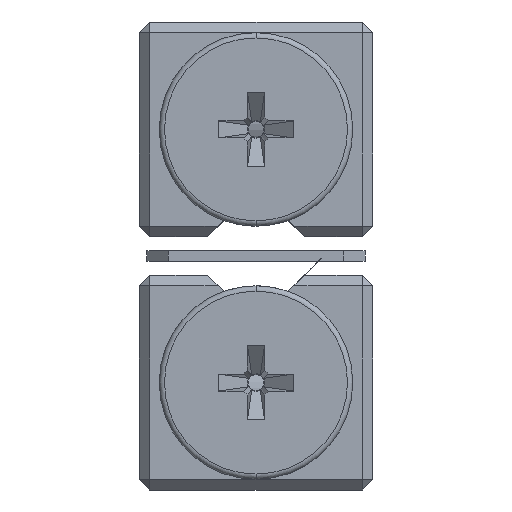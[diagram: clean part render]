
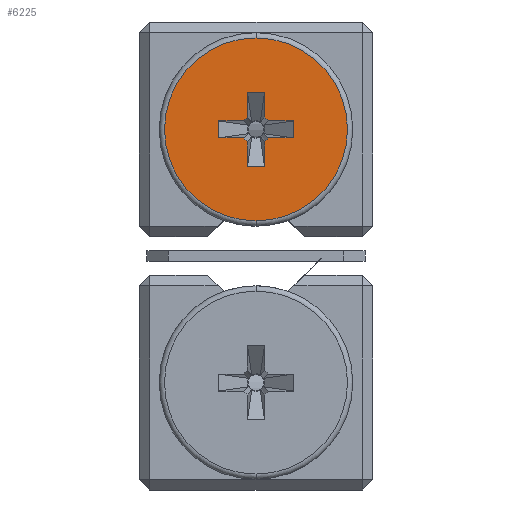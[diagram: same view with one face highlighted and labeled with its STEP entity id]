
A CAD part, left-side view. The second image highlights one B-rep face of the part: STEP entity #6225.
In plain terms, the highlighted planar face has unit normal (-1, 0, 0).
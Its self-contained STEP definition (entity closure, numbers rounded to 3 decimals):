
#1517 = EDGE_LOOP ( 'NONE', ( #1735, #1736, #1749, #1750, #1746, #1747, #1748, #1745, #1778, #1788, #1787, #1786, #1784, #1785, #1783, #1782 ) ) ;
#1523 = EDGE_LOOP ( 'NONE', ( #1733, #1734 ) ) ;
#1733 = ORIENTED_EDGE ( 'NONE', *, *, #2230, .T. ) ;
#1734 = ORIENTED_EDGE ( 'NONE', *, *, #2185, .T. ) ;
#1735 = ORIENTED_EDGE ( 'NONE', *, *, #2192, .F. ) ;
#1736 = ORIENTED_EDGE ( 'NONE', *, *, #2220, .T. ) ;
#1745 = ORIENTED_EDGE ( 'NONE', *, *, #2207, .T. ) ;
#1746 = ORIENTED_EDGE ( 'NONE', *, *, #2229, .F. ) ;
#1747 = ORIENTED_EDGE ( 'NONE', *, *, #2200, .T. ) ;
#1748 = ORIENTED_EDGE ( 'NONE', *, *, #2205, .F. ) ;
#1749 = ORIENTED_EDGE ( 'NONE', *, *, #2224, .F. ) ;
#1750 = ORIENTED_EDGE ( 'NONE', *, *, #2226, .T. ) ;
#1778 = ORIENTED_EDGE ( 'NONE', *, *, #2228, .F. ) ;
#1782 = ORIENTED_EDGE ( 'NONE', *, *, #2219, .T. ) ;
#1783 = ORIENTED_EDGE ( 'NONE', *, *, #2218, .F. ) ;
#1784 = ORIENTED_EDGE ( 'NONE', *, *, #2196, .F. ) ;
#1785 = ORIENTED_EDGE ( 'NONE', *, *, #2215, .T. ) ;
#1786 = ORIENTED_EDGE ( 'NONE', *, *, #2214, .T. ) ;
#1787 = ORIENTED_EDGE ( 'NONE', *, *, #2212, .F. ) ;
#1788 = ORIENTED_EDGE ( 'NONE', *, *, #2208, .T. ) ;
#2185 = EDGE_CURVE ( 'NONE', #19439, #19249, #2953, .T. ) ;
#2192 = EDGE_CURVE ( 'NONE', #19251, #19258, #2964, .T. ) ;
#2196 = EDGE_CURVE ( 'NONE', #19257, #19262, #2962, .T. ) ;
#2200 = EDGE_CURVE ( 'NONE', #19410, #19254, #2968, .T. ) ;
#2205 = EDGE_CURVE ( 'NONE', #19264, #19254, #2974, .T. ) ;
#2207 = EDGE_CURVE ( 'NONE', #19264, #19266, #2975, .T. ) ;
#2208 = EDGE_CURVE ( 'NONE', #19263, #19267, #2973, .T. ) ;
#2212 = EDGE_CURVE ( 'NONE', #19272, #19267, #2983, .T. ) ;
#2214 = EDGE_CURVE ( 'NONE', #19272, #19262, #2986, .T. ) ;
#2215 = EDGE_CURVE ( 'NONE', #19257, #19270, #2987, .T. ) ;
#2218 = EDGE_CURVE ( 'NONE', #19307, #19270, #2993, .T. ) ;
#2219 = EDGE_CURVE ( 'NONE', #19307, #19258, #2995, .T. ) ;
#2220 = EDGE_CURVE ( 'NONE', #19251, #19302, #2997, .T. ) ;
#2224 = EDGE_CURVE ( 'NONE', #19271, #19302, #3004, .T. ) ;
#2226 = EDGE_CURVE ( 'NONE', #19271, #19306, #3005, .T. ) ;
#2228 = EDGE_CURVE ( 'NONE', #19263, #19266, #3009, .T. ) ;
#2229 = EDGE_CURVE ( 'NONE', #19410, #19306, #3010, .T. ) ;
#2230 = EDGE_CURVE ( 'NONE', #19249, #19439, #3011, .T. ) ;
#2953 = CIRCLE ( 'NONE', #7610, 8.6 ) ;
#2962 = CIRCLE ( 'NONE', #7615, 1.42 ) ;
#2964 = CIRCLE ( 'NONE', #7614, 1.42 ) ;
#2968 = LINE ( 'NONE', #7777, #2970 ) ;
#2970 = VECTOR ( 'NONE', #8029, 1000. ) ;
#2973 = LINE ( 'NONE', #7809, #2980 ) ;
#2974 = LINE ( 'NONE', #7791, #2976 ) ;
#2975 = LINE ( 'NONE', #8069, #2977 ) ;
#2976 = VECTOR ( 'NONE', #7794, 1000. ) ;
#2977 = VECTOR ( 'NONE', #7810, 1000. ) ;
#2980 = VECTOR ( 'NONE', #7804, 1000. ) ;
#2983 = LINE ( 'NONE', #8042, #2985 ) ;
#2985 = VECTOR ( 'NONE', #7831, 1000. ) ;
#2986 = LINE ( 'NONE', #7894, #2988 ) ;
#2987 = LINE ( 'NONE', #8052, #2990 ) ;
#2988 = VECTOR ( 'NONE', #7914, 1000. ) ;
#2990 = VECTOR ( 'NONE', #7832, 1000. ) ;
#2993 = LINE ( 'NONE', #7828, #2996 ) ;
#2995 = LINE ( 'NONE', #7877, #2998 ) ;
#2996 = VECTOR ( 'NONE', #7887, 1000. ) ;
#2997 = LINE ( 'NONE', #7876, #3000 ) ;
#2998 = VECTOR ( 'NONE', #8058, 1000. ) ;
#3000 = VECTOR ( 'NONE', #7880, 1000. ) ;
#3004 = LINE ( 'NONE', #8057, #3006 ) ;
#3005 = LINE ( 'NONE', #8071, #3007 ) ;
#3006 = VECTOR ( 'NONE', #7980, 1000. ) ;
#3007 = VECTOR ( 'NONE', #8073, 1000. ) ;
#3009 = CIRCLE ( 'NONE', #7617, 1.42 ) ;
#3010 = CIRCLE ( 'NONE', #7618, 1.42 ) ;
#3011 = CIRCLE ( 'NONE', #7619, 8.6 ) ;
#4866 = AXIS2_PLACEMENT_3D ( 'NONE', #8205, #8193, #8192 ) ;
#6225 = ADVANCED_FACE ( 'NONE', ( #12272, #12265 ), #8196, .F. ) ;
#7610 = AXIS2_PLACEMENT_3D ( 'NONE', #8012, #8011, #7695 ) ;
#7614 = AXIS2_PLACEMENT_3D ( 'NONE', #7754, #7755, #8017 ) ;
#7615 = AXIS2_PLACEMENT_3D ( 'NONE', #7771, #7772, #7773 ) ;
#7617 = AXIS2_PLACEMENT_3D ( 'NONE', #8090, #7781, #7751 ) ;
#7618 = AXIS2_PLACEMENT_3D ( 'NONE', #7989, #8114, #8107 ) ;
#7619 = AXIS2_PLACEMENT_3D ( 'NONE', #7862, #7863, #8060 ) ;
#7695 = DIRECTION ( 'NONE',  ( 0., 0., -1. ) ) ;
#7751 = DIRECTION ( 'NONE',  ( 0., 0., 1. ) ) ;
#7754 = CARTESIAN_POINT ( 'NONE',  ( -109.563, 44.444, 23.8 ) ) ;
#7755 = DIRECTION ( 'NONE',  ( -1., 0., 0. ) ) ;
#7771 = CARTESIAN_POINT ( 'NONE',  ( -109.563, 44.444, 23.8 ) ) ;
#7772 = DIRECTION ( 'NONE',  ( -1., 0., 0. ) ) ;
#7773 = DIRECTION ( 'NONE',  ( 0., 0., 1. ) ) ;
#7777 = CARTESIAN_POINT ( 'NONE',  ( -109.563, 40.944, 23. ) ) ;
#7781 = DIRECTION ( 'NONE',  ( -1., 0., 0. ) ) ;
#7791 = CARTESIAN_POINT ( 'NONE',  ( -109.563, 47.944, 24.6 ) ) ;
#7794 = DIRECTION ( 'NONE',  ( 0., 0., -1. ) ) ;
#7804 = DIRECTION ( 'NONE',  ( 0., 0., 1. ) ) ;
#7809 = CARTESIAN_POINT ( 'NONE',  ( -109.563, 45.244, 20.3 ) ) ;
#7810 = DIRECTION ( 'NONE',  ( 0., -1., 0. ) ) ;
#7828 = CARTESIAN_POINT ( 'NONE',  ( -109.563, 40.944, 23. ) ) ;
#7831 = DIRECTION ( 'NONE',  ( 0., 1., 0. ) ) ;
#7832 = DIRECTION ( 'NONE',  ( 0., -1., 0. ) ) ;
#7862 = CARTESIAN_POINT ( 'NONE',  ( -109.563, 44.444, 23.8 ) ) ;
#7863 = DIRECTION ( 'NONE',  ( -1., 0., 0. ) ) ;
#7876 = CARTESIAN_POINT ( 'NONE',  ( -109.563, 43.644, 27.3 ) ) ;
#7877 = CARTESIAN_POINT ( 'NONE',  ( -109.563, 40.944, 23. ) ) ;
#7880 = DIRECTION ( 'NONE',  ( 0., 0., -1. ) ) ;
#7887 = DIRECTION ( 'NONE',  ( 0., 0., 1. ) ) ;
#7894 = CARTESIAN_POINT ( 'NONE',  ( -109.563, 43.644, 27.3 ) ) ;
#7914 = DIRECTION ( 'NONE',  ( 0., 0., -1. ) ) ;
#7980 = DIRECTION ( 'NONE',  ( 0., -1., 0. ) ) ;
#7989 = CARTESIAN_POINT ( 'NONE',  ( -109.563, 44.444, 23.8 ) ) ;
#8011 = DIRECTION ( 'NONE',  ( -1., 0., 0. ) ) ;
#8012 = CARTESIAN_POINT ( 'NONE',  ( -109.563, 44.444, 23.8 ) ) ;
#8017 = DIRECTION ( 'NONE',  ( 0., 0., 1. ) ) ;
#8029 = DIRECTION ( 'NONE',  ( 0., 1., 0. ) ) ;
#8042 = CARTESIAN_POINT ( 'NONE',  ( -109.563, 43.644, 27.3 ) ) ;
#8052 = CARTESIAN_POINT ( 'NONE',  ( -109.563, 47.944, 24.6 ) ) ;
#8057 = CARTESIAN_POINT ( 'NONE',  ( -109.563, 45.244, 20.3 ) ) ;
#8058 = DIRECTION ( 'NONE',  ( 0., 1., 0. ) ) ;
#8060 = DIRECTION ( 'NONE',  ( 0., 0., -1. ) ) ;
#8069 = CARTESIAN_POINT ( 'NONE',  ( -109.563, 47.944, 24.6 ) ) ;
#8071 = CARTESIAN_POINT ( 'NONE',  ( -109.563, 45.244, 20.3 ) ) ;
#8073 = DIRECTION ( 'NONE',  ( 0., 0., 1. ) ) ;
#8090 = CARTESIAN_POINT ( 'NONE',  ( -109.563, 44.444, 23.8 ) ) ;
#8107 = DIRECTION ( 'NONE',  ( 0., 0., 1. ) ) ;
#8114 = DIRECTION ( 'NONE',  ( -1., 0., 0. ) ) ;
#8192 = DIRECTION ( 'NONE',  ( 0., 0., -1. ) ) ;
#8193 = DIRECTION ( 'NONE',  ( 1., 0., 0. ) ) ;
#8196 = PLANE ( 'NONE',  #4866 ) ;
#8205 = CARTESIAN_POINT ( 'NONE',  ( -109.563, 53.544, 23.8 ) ) ;
#12265 = FACE_BOUND ( 'NONE', #1517, .T. ) ;
#12272 = FACE_OUTER_BOUND ( 'NONE', #1523, .T. ) ;
#13548 = CARTESIAN_POINT ( 'NONE',  ( -109.563, 44.444, 15.2 ) ) ;
#13551 = CARTESIAN_POINT ( 'NONE',  ( -109.563, 40.944, 24.6 ) ) ;
#13553 = CARTESIAN_POINT ( 'NONE',  ( -109.563, 43.644, 22.627 ) ) ;
#13556 = CARTESIAN_POINT ( 'NONE',  ( -109.563, 47.944, 23. ) ) ;
#13559 = CARTESIAN_POINT ( 'NONE',  ( -109.563, 43.271, 24.6 ) ) ;
#13560 = CARTESIAN_POINT ( 'NONE',  ( -109.563, 43.271, 23. ) ) ;
#13564 = CARTESIAN_POINT ( 'NONE',  ( -109.563, 43.644, 24.973 ) ) ;
#13565 = CARTESIAN_POINT ( 'NONE',  ( -109.563, 45.244, 24.973 ) ) ;
#13566 = CARTESIAN_POINT ( 'NONE',  ( -109.563, 47.944, 24.6 ) ) ;
#13568 = CARTESIAN_POINT ( 'NONE',  ( -109.563, 45.617, 24.6 ) ) ;
#13569 = CARTESIAN_POINT ( 'NONE',  ( -109.563, 45.244, 27.3 ) ) ;
#13571 = CARTESIAN_POINT ( 'NONE',  ( -109.563, 45.244, 20.3 ) ) ;
#13572 = CARTESIAN_POINT ( 'NONE',  ( -109.563, 43.644, 27.3 ) ) ;
#13593 = CARTESIAN_POINT ( 'NONE',  ( -109.563, 43.644, 20.3 ) ) ;
#13605 = CARTESIAN_POINT ( 'NONE',  ( -109.563, 45.244, 22.627 ) ) ;
#13606 = CARTESIAN_POINT ( 'NONE',  ( -109.563, 40.944, 23. ) ) ;
#13647 = CARTESIAN_POINT ( 'NONE',  ( -109.563, 45.617, 23. ) ) ;
#13675 = CARTESIAN_POINT ( 'NONE',  ( -109.563, 44.444, 32.4 ) ) ;
#19249 = VERTEX_POINT ( 'NONE', #13548 ) ;
#19251 = VERTEX_POINT ( 'NONE', #13553 ) ;
#19254 = VERTEX_POINT ( 'NONE', #13556 ) ;
#19257 = VERTEX_POINT ( 'NONE', #13559 ) ;
#19258 = VERTEX_POINT ( 'NONE', #13560 ) ;
#19262 = VERTEX_POINT ( 'NONE', #13564 ) ;
#19263 = VERTEX_POINT ( 'NONE', #13565 ) ;
#19264 = VERTEX_POINT ( 'NONE', #13566 ) ;
#19266 = VERTEX_POINT ( 'NONE', #13568 ) ;
#19267 = VERTEX_POINT ( 'NONE', #13569 ) ;
#19270 = VERTEX_POINT ( 'NONE', #13551 ) ;
#19271 = VERTEX_POINT ( 'NONE', #13571 ) ;
#19272 = VERTEX_POINT ( 'NONE', #13572 ) ;
#19302 = VERTEX_POINT ( 'NONE', #13593 ) ;
#19306 = VERTEX_POINT ( 'NONE', #13605 ) ;
#19307 = VERTEX_POINT ( 'NONE', #13606 ) ;
#19410 = VERTEX_POINT ( 'NONE', #13647 ) ;
#19439 = VERTEX_POINT ( 'NONE', #13675 ) ;
